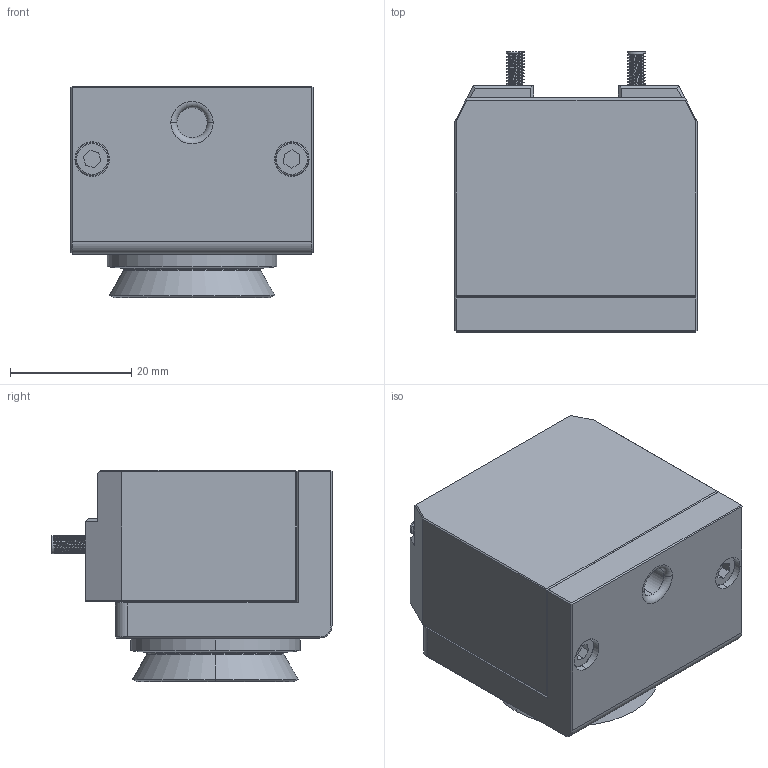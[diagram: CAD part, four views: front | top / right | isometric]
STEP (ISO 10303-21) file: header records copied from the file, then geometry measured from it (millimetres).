
FILE_DESCRIPTION (( 'STEP AP203' ), '1' );
FILE_NAME ('QCHFM-02R-10001.STEP', '2024-10-10T05:58:23', ( '微软用户' ), ( '微软中国' ), 'SwSTEP 2.0', 'SolidWorks 2018', '' );
FILE_SCHEMA (( 'CONFIG_CONTROL_DESIGN' ));
Length unit declared in the file: millimetre
Products named in the file (1): QCHFM-02R-10001
Bounding box: 40 x 46.3 x 34.9 mm (x, y, z)
Volume: 44948.1 mm3; surface area: 11041.9 mm2
Topology: 1 solids, 20 shells, 690 faces, 1749 edges, 1109 vertices
Faces by surface type: cylinder 320, plane 259, cone 56, torus 30, bspline 25
Entity records: 33717 total; most frequent: CARTESIAN_POINT 18466, ORIENTED_EDGE 3482, DIRECTION 2871, EDGE_CURVE 1741, VERTEX_POINT 1109, AXIS2_PLACEMENT_3D 1021, LINE 829, VECTOR 829
